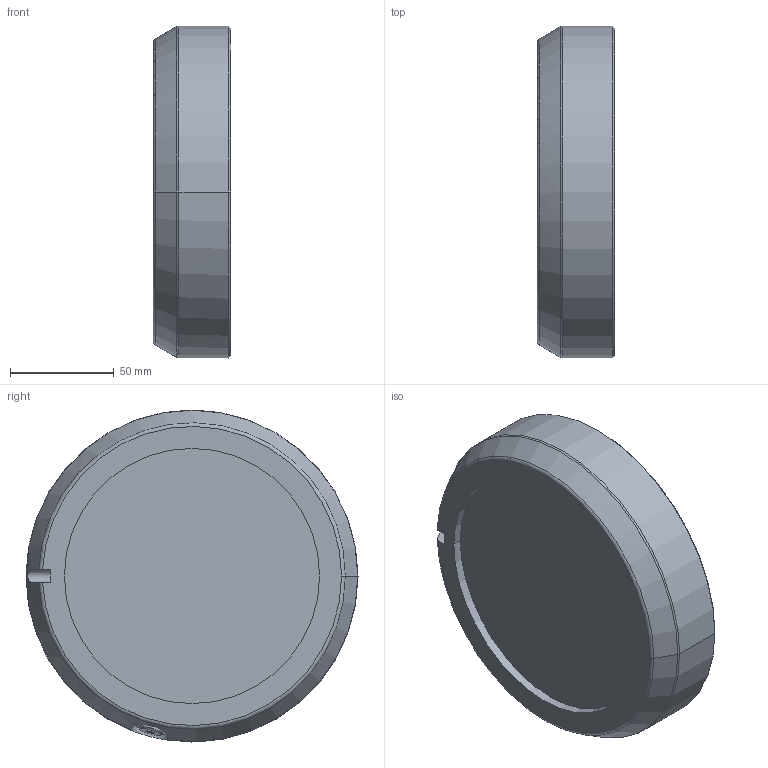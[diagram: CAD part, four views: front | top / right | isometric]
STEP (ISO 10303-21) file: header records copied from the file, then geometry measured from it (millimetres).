
FILE_DESCRIPTION (( 'STEP AP214' ), '1' );
FILE_NAME ('IRB5720-MH3_125kg-300_OmniCore_rev00_LINK06_CAD.step', '2025-07-08T11:14:26', ( '' ), ( '' ), 'SwSTEP 2.0', 'SolidWorks 2024', '' );
FILE_SCHEMA (( 'AUTOMOTIVE_DESIGN' ));
Length unit declared in the file: millimetre
Products named in the file (1): IRB5720-MH3_125kg-300_OmniCore_rev00_LINK06_CAD
Bounding box: 37.4 x 160 x 160 mm (x, y, z)
Volume: 536844.6 mm3; surface area: 76443.6 mm2
Topology: 1 solids, 1 shells, 149 faces, 336 edges, 212 vertices
Faces by surface type: cylinder 74, plane 39, torus 21, cone 13, bspline 2
Entity records: 4611 total; most frequent: CARTESIAN_POINT 1058, DIRECTION 795, ORIENTED_EDGE 668, AXIS2_PLACEMENT_3D 335, EDGE_CURVE 334, VERTEX_POINT 212, CIRCLE 187, EDGE_LOOP 174
